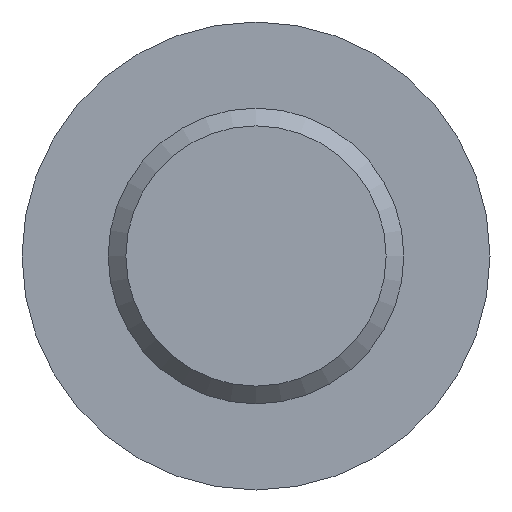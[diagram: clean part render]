
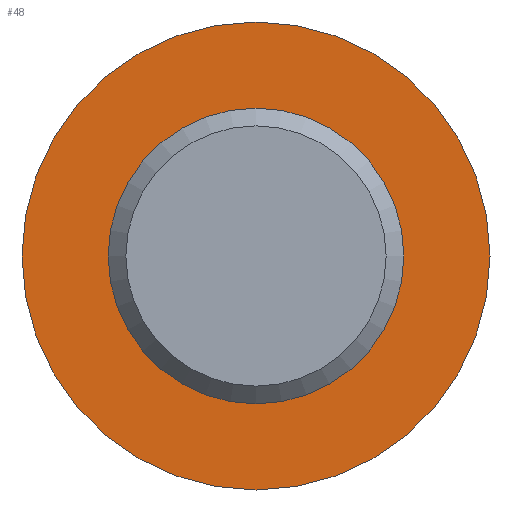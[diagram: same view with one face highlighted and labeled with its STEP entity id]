
A CAD part, front view. The second image highlights one B-rep face of the part: STEP entity #48.
In plain terms, the highlighted planar face has unit normal (0, -1, 0).
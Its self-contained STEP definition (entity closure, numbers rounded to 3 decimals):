
#48 = ADVANCED_FACE( '', ( #95, #96 ), #97, .F. );
#95 = FACE_BOUND( '', #138, .T. );
#96 = FACE_OUTER_BOUND( '', #139, .T. );
#97 = PLANE( '', #140 );
#138 = EDGE_LOOP( '', ( #228 ) );
#139 = EDGE_LOOP( '', ( #229 ) );
#140 = AXIS2_PLACEMENT_3D( '', #230, #231, #232 );
#228 = ORIENTED_EDGE( '', *, *, #247, .F. );
#229 = ORIENTED_EDGE( '', *, *, #263, .T. );
#230 = CARTESIAN_POINT( '', ( 7.7, 6.2, 0. ) );
#231 = DIRECTION( '', ( 0., 1., 0. ) );
#232 = DIRECTION( '', ( 0., 0., 1. ) );
#247 = EDGE_CURVE( '', #270, #270, #271, .T. );
#263 = EDGE_CURVE( '', #294, #294, #295, .T. );
#270 = VERTEX_POINT( '', #302 );
#271 = CIRCLE( '', #303, 4.864 );
#294 = VERTEX_POINT( '', #362 );
#295 = CIRCLE( '', #363, 7.7 );
#302 = CARTESIAN_POINT( '', ( 0., 6.2, -4.864 ) );
#303 = AXIS2_PLACEMENT_3D( '', #370, #371, #372 );
#362 = CARTESIAN_POINT( '', ( 0., 6.2, -7.7 ) );
#363 = AXIS2_PLACEMENT_3D( '', #390, #391, #392 );
#370 = CARTESIAN_POINT( '', ( 0., 6.2, 0. ) );
#371 = DIRECTION( '', ( 0., -1., 0. ) );
#372 = DIRECTION( '', ( 0., 0., -1. ) );
#390 = CARTESIAN_POINT( '', ( 0., 6.2, 0. ) );
#391 = DIRECTION( '', ( 0., -1., 0. ) );
#392 = DIRECTION( '', ( 0., 0., -1. ) );
